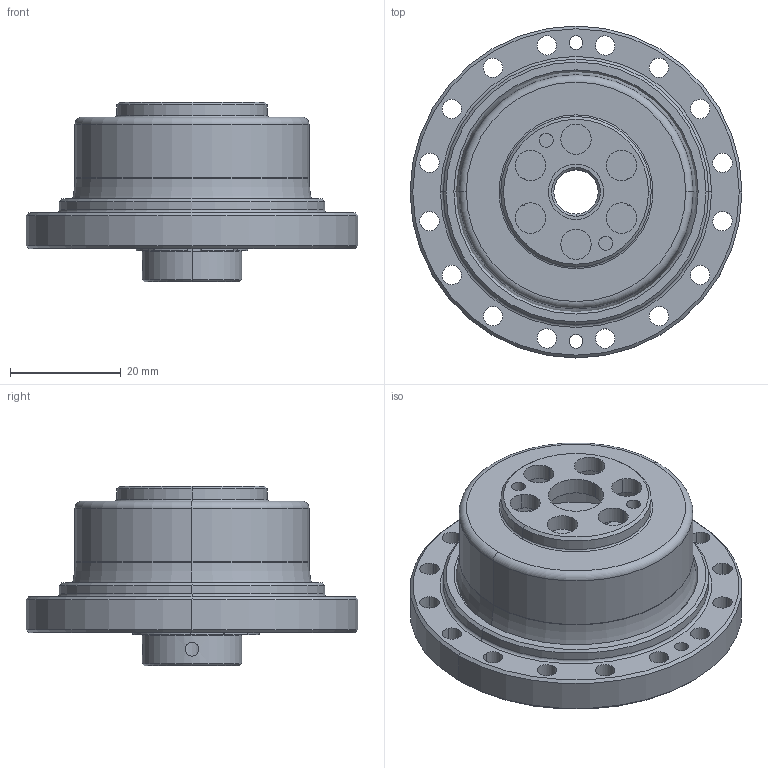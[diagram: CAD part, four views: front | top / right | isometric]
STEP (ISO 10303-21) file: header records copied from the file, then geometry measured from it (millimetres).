
FILE_DESCRIPTION (( 'STEP AP203' ), '1' );
FILE_NAME ('FCG-17-XXX-CO.STEP', '2020-04-23T06:18:05', ( '' ), ( '' ), 'SwSTEP 2.0', 'SolidWorks 2016', '' );
FILE_SCHEMA (( 'CONFIG_CONTROL_DESIGN' ));
Length unit declared in the file: millimetre
Products named in the file (1): FCG-17-XXX-CO
Bounding box: 60 x 60 x 32.5 mm (x, y, z)
Volume: 25682.2 mm3; surface area: 30020.3 mm2
Topology: 34 solids, 34 shells, 428 faces, 1162 edges, 761 vertices
Faces by surface type: cylinder 206, plane 107, sphere 46, cone 39, torus 30
Entity records: 13268 total; most frequent: DIRECTION 2535, CARTESIAN_POINT 2380, ORIENTED_EDGE 2094, AXIS2_PLACEMENT_3D 1087, EDGE_CURVE 1047, VERTEX_POINT 692, CIRCLE 658, EDGE_LOOP 511
